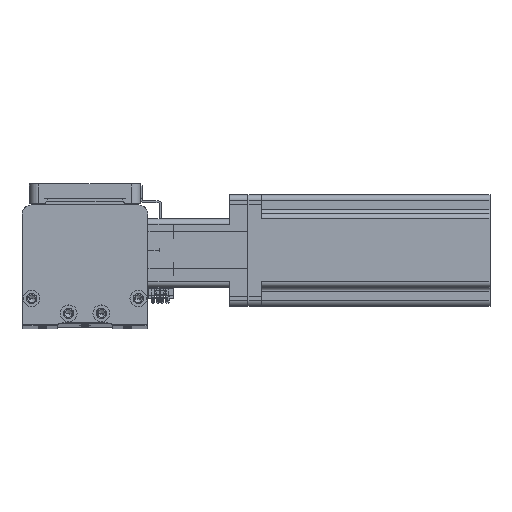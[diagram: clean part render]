
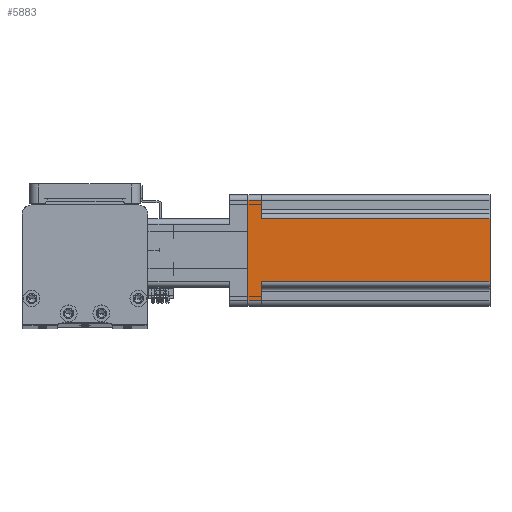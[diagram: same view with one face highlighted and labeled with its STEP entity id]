
A CAD part, top view. The second image highlights one B-rep face of the part: STEP entity #5883.
In plain terms, the highlighted planar face has unit normal (0, 0, 1) as drawn and (1, 0, 0) by its records, which use the part's own axes.
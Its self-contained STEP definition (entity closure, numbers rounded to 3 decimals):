
#361 = VECTOR ( 'NONE', #39521, 1000. ) ;
#560 = ORIENTED_EDGE ( 'NONE', *, *, #37058, .T. ) ;
#672 = LINE ( 'NONE', #6345, #39281 ) ;
#1430 = LINE ( 'NONE', #35698, #12213 ) ;
#1685 = AXIS2_PLACEMENT_3D ( 'NONE', #26743, #4961, #30379 ) ;
#2132 = VERTEX_POINT ( 'NONE', #41366 ) ;
#2515 = DIRECTION ( 'NONE',  ( 0., 0., 1. ) ) ;
#4961 = DIRECTION ( 'NONE',  ( -1., 0., 0. ) ) ;
#5008 = EDGE_CURVE ( 'NONE', #22068, #14038, #1430, .T. ) ;
#5721 = ORIENTED_EDGE ( 'NONE', *, *, #21744, .T. ) ;
#5806 = ORIENTED_EDGE ( 'NONE', *, *, #5008, .T. ) ;
#5883 = ADVANCED_FACE ( 'NONE', ( #9685 ), #8493, .F. ) ;
#5957 = LINE ( 'NONE', #42602, #43423 ) ;
#6320 = ORIENTED_EDGE ( 'NONE', *, *, #13029, .T. ) ;
#6345 = CARTESIAN_POINT ( 'NONE',  ( 30., -27., 130.7 ) ) ;
#6362 = ORIENTED_EDGE ( 'NONE', *, *, #38153, .T. ) ;
#6827 = CARTESIAN_POINT ( 'NONE',  ( 30., -30., 130.7 ) ) ;
#7884 = EDGE_CURVE ( 'NONE', #27989, #2132, #10034, .T. ) ;
#8493 = PLANE ( 'NONE',  #1685 ) ;
#9685 = FACE_OUTER_BOUND ( 'NONE', #40961, .T. ) ;
#9989 = DIRECTION ( 'NONE',  ( 0., -1., 0. ) ) ;
#10034 = LINE ( 'NONE', #6827, #361 ) ;
#11922 = CARTESIAN_POINT ( 'NONE',  ( 30., 17., 130.7 ) ) ;
#12213 = VECTOR ( 'NONE', #13928, 1000. ) ;
#12949 = EDGE_CURVE ( 'NONE', #41482, #37636, #36694, .T. ) ;
#13029 = EDGE_CURVE ( 'NONE', #41482, #2132, #33242, .T. ) ;
#13928 = DIRECTION ( 'NONE',  ( 0., 1., 0. ) ) ;
#14010 = CARTESIAN_POINT ( 'NONE',  ( 30., 27., 7.5 ) ) ;
#14038 = VERTEX_POINT ( 'NONE', #43685 ) ;
#14442 = DIRECTION ( 'NONE',  ( 0., 1., 0. ) ) ;
#15553 = DIRECTION ( 'NONE',  ( 0., 0., 1. ) ) ;
#15870 = ORIENTED_EDGE ( 'NONE', *, *, #7884, .F. ) ;
#17284 = CARTESIAN_POINT ( 'NONE',  ( 30., -27., 7.5 ) ) ;
#18467 = CARTESIAN_POINT ( 'NONE',  ( 30., -17., 7.5 ) ) ;
#18635 = VECTOR ( 'NONE', #45617, 1000. ) ;
#20394 = EDGE_CURVE ( 'NONE', #43334, #22068, #672, .T. ) ;
#20636 = CARTESIAN_POINT ( 'NONE',  ( 30., 27., 130.7 ) ) ;
#21744 = EDGE_CURVE ( 'NONE', #27989, #35110, #28286, .T. ) ;
#22068 = VERTEX_POINT ( 'NONE', #40049 ) ;
#23183 = ORIENTED_EDGE ( 'NONE', *, *, #20394, .T. ) ;
#26743 = CARTESIAN_POINT ( 'NONE',  ( 30., -30., 130.7 ) ) ;
#27435 = CARTESIAN_POINT ( 'NONE',  ( 30., -17., 7.5 ) ) ;
#27989 = VERTEX_POINT ( 'NONE', #38248 ) ;
#28128 = DIRECTION ( 'NONE',  ( 0., 0., -1. ) ) ;
#28286 = LINE ( 'NONE', #27435, #18635 ) ;
#30379 = DIRECTION ( 'NONE',  ( 0., 0., 1. ) ) ;
#30545 = ORIENTED_EDGE ( 'NONE', *, *, #12949, .F. ) ;
#33242 = LINE ( 'NONE', #11922, #44024 ) ;
#35110 = VERTEX_POINT ( 'NONE', #18467 ) ;
#35324 = VECTOR ( 'NONE', #2515, 1000. ) ;
#35698 = CARTESIAN_POINT ( 'NONE',  ( 30., -30., 0. ) ) ;
#36694 = LINE ( 'NONE', #39841, #46296 ) ;
#37058 = EDGE_CURVE ( 'NONE', #35110, #43334, #5957, .T. ) ;
#37636 = VERTEX_POINT ( 'NONE', #14010 ) ;
#38153 = EDGE_CURVE ( 'NONE', #14038, #37636, #38731, .T. ) ;
#38248 = CARTESIAN_POINT ( 'NONE',  ( 30., -17., 130.7 ) ) ;
#38731 = LINE ( 'NONE', #20636, #35324 ) ;
#39281 = VECTOR ( 'NONE', #28128, 1000. ) ;
#39521 = DIRECTION ( 'NONE',  ( 0., 1., 0. ) ) ;
#39841 = CARTESIAN_POINT ( 'NONE',  ( 30., 30., 7.5 ) ) ;
#40049 = CARTESIAN_POINT ( 'NONE',  ( 30., -27., 0. ) ) ;
#40961 = EDGE_LOOP ( 'NONE', ( #15870, #5721, #560, #23183, #5806, #6362, #30545, #6320 ) ) ;
#41366 = CARTESIAN_POINT ( 'NONE',  ( 30., 17., 130.7 ) ) ;
#41482 = VERTEX_POINT ( 'NONE', #45498 ) ;
#42602 = CARTESIAN_POINT ( 'NONE',  ( 30., -30., 7.5 ) ) ;
#43334 = VERTEX_POINT ( 'NONE', #17284 ) ;
#43423 = VECTOR ( 'NONE', #9989, 1000. ) ;
#43685 = CARTESIAN_POINT ( 'NONE',  ( 30., 27., 0. ) ) ;
#44024 = VECTOR ( 'NONE', #15553, 1000. ) ;
#45498 = CARTESIAN_POINT ( 'NONE',  ( 30., 17., 7.5 ) ) ;
#45617 = DIRECTION ( 'NONE',  ( 0., 0., -1. ) ) ;
#46296 = VECTOR ( 'NONE', #14442, 1000. ) ;
